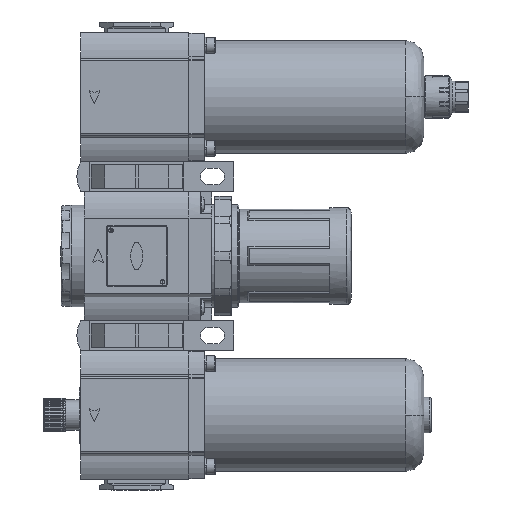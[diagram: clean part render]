
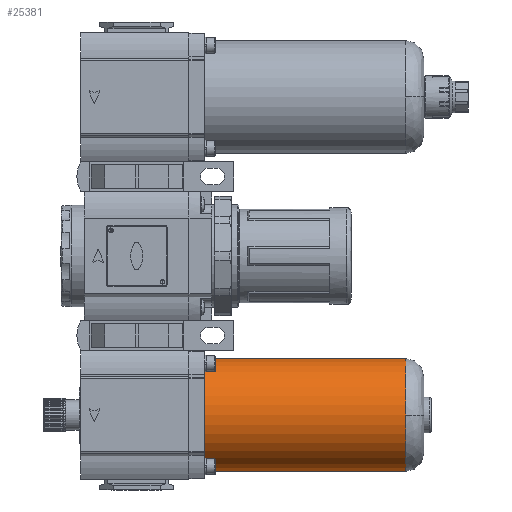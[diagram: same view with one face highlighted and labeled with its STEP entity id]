
A CAD part, left-side view. The second image highlights one B-rep face of the part: STEP entity #25381.
In plain terms, the highlighted cylindrical face has radius 37.25 mm (diameter 74.5 mm), a partial arc.
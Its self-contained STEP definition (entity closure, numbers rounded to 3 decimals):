
#3978 = EDGE_CURVE ( 'NONE', #4589, #51629, #41898, .T. ) ;
#4589 = VERTEX_POINT ( 'NONE', #65401 ) ;
#4836 = CARTESIAN_POINT ( 'NONE',  ( 0., -177.5, -142.25 ) ) ;
#8565 = EDGE_LOOP ( 'NONE', ( #95005, #45966, #90106, #18203, #63415 ) ) ;
#12861 = VERTEX_POINT ( 'NONE', #78853 ) ;
#15170 = CARTESIAN_POINT ( 'NONE',  ( 0., -111., -67.75 ) ) ;
#15342 = VECTOR ( 'NONE', #37969, 1000. ) ;
#16778 = DIRECTION ( 'NONE',  ( 0., 0., -1. ) ) ;
#17051 = EDGE_CURVE ( 'NONE', #50599, #51629, #67306, .T. ) ;
#18203 = ORIENTED_EDGE ( 'NONE', *, *, #83553, .T. ) ;
#19722 = DIRECTION ( 'NONE',  ( 0., 0., -1. ) ) ;
#23990 = CARTESIAN_POINT ( 'NONE',  ( 0., -177.5, -105. ) ) ;
#25381 = ADVANCED_FACE ( 'NONE', ( #42709 ), #61490, .T. ) ;
#28116 = EDGE_CURVE ( 'NONE', #50599, #12861, #48707, .T. ) ;
#33014 = DIRECTION ( 'NONE',  ( 0., -1., 0. ) ) ;
#37969 = DIRECTION ( 'NONE',  ( 0., -1., 0. ) ) ;
#41898 = CIRCLE ( 'NONE', #95511, 37.25 ) ;
#42709 = FACE_OUTER_BOUND ( 'NONE', #8565, .T. ) ;
#42773 = CARTESIAN_POINT ( 'NONE',  ( 0., -177.5, -105. ) ) ;
#45021 = AXIS2_PLACEMENT_3D ( 'NONE', #55026, #47720, #16778 ) ;
#45966 = ORIENTED_EDGE ( 'NONE', *, *, #28116, .T. ) ;
#47720 = DIRECTION ( 'NONE',  ( 0., -1., 0. ) ) ;
#48707 = CIRCLE ( 'NONE', #45021, 37.25 ) ;
#49304 = CARTESIAN_POINT ( 'NONE',  ( 0., -111., -142.25 ) ) ;
#49647 = DIRECTION ( 'NONE',  ( 0., -1., 0. ) ) ;
#50563 = VERTEX_POINT ( 'NONE', #4836 ) ;
#50599 = VERTEX_POINT ( 'NONE', #76713 ) ;
#51629 = VERTEX_POINT ( 'NONE', #72619 ) ;
#55026 = CARTESIAN_POINT ( 'NONE',  ( 0., -44.5, -105. ) ) ;
#55076 = DIRECTION ( 'NONE',  ( 0., 0., -1. ) ) ;
#55720 = CARTESIAN_POINT ( 'NONE',  ( 0., -111., -105. ) ) ;
#56889 = EDGE_CURVE ( 'NONE', #12861, #50563, #67764, .T. ) ;
#60545 = DIRECTION ( 'NONE',  ( 0., 1., 0. ) ) ;
#60841 = DIRECTION ( 'NONE',  ( 0., 0., -1. ) ) ;
#61490 = CYLINDRICAL_SURFACE ( 'NONE', #62336, 37.25 ) ;
#62336 = AXIS2_PLACEMENT_3D ( 'NONE', #55720, #33014, #55076 ) ;
#63415 = ORIENTED_EDGE ( 'NONE', *, *, #3978, .T. ) ;
#65401 = CARTESIAN_POINT ( 'NONE',  ( -37.25, -177.5, -105. ) ) ;
#67306 = LINE ( 'NONE', #15170, #15342 ) ;
#67764 = LINE ( 'NONE', #49304, #82040 ) ;
#71927 = AXIS2_PLACEMENT_3D ( 'NONE', #23990, #60545, #60841 ) ;
#72619 = CARTESIAN_POINT ( 'NONE',  ( 0., -177.5, -67.75 ) ) ;
#74322 = CIRCLE ( 'NONE', #71927, 37.25 ) ;
#76713 = CARTESIAN_POINT ( 'NONE',  ( 0., -44.5, -67.75 ) ) ;
#78853 = CARTESIAN_POINT ( 'NONE',  ( 0., -44.5, -142.25 ) ) ;
#80776 = DIRECTION ( 'NONE',  ( 0., 1., 0. ) ) ;
#82040 = VECTOR ( 'NONE', #49647, 1000. ) ;
#83553 = EDGE_CURVE ( 'NONE', #50563, #4589, #74322, .T. ) ;
#90106 = ORIENTED_EDGE ( 'NONE', *, *, #56889, .T. ) ;
#95005 = ORIENTED_EDGE ( 'NONE', *, *, #17051, .F. ) ;
#95511 = AXIS2_PLACEMENT_3D ( 'NONE', #42773, #80776, #19722 ) ;
